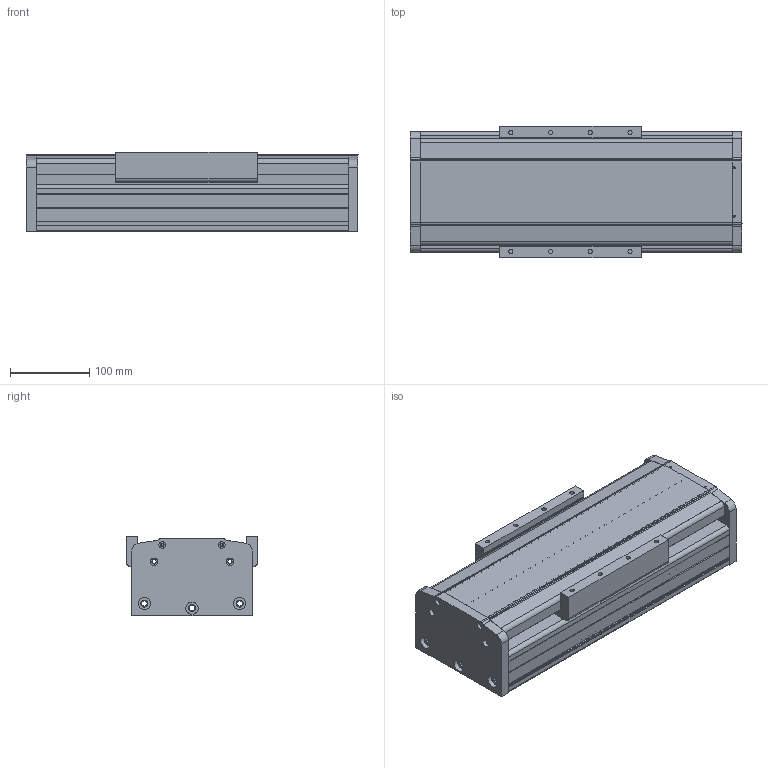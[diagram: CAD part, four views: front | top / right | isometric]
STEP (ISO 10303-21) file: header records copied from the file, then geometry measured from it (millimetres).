
FILE_DESCRIPTION(/* description */ (''),/* implementation_level */ '2;1');
FILE_NAME(/* name */ 'GF150-行程100.stp',/* time_stamp */ '2022-05-31T12:09:50+08:00',/* author */ (''),/* organization */ (''),/* preprocessor_version */ 'ST-DEVELOPER v16',/* originating_system */ 'SIEMENS PLM Software NX 10.0',/* authorisation */ '');
FILE_SCHEMA (('AP203_CONFIGURATION_CONTROLLED_3D_DESIGN_OF_MECHANICAL_PARTS_AND_ASSEMBLIES_MIM_LF { 1 0 10303 403 2 1 2}'));
Length unit declared in the file: millimetre
Products named in the file (1): Admi1B78CFABo93t
Bounding box: 418 x 166 x 100.3 mm (x, y, z)
Volume: 2794002.6 mm3; surface area: 1216247.6 mm2
Topology: 19 solids, 19 shells, 907 faces, 2380 edges, 1606 vertices
Faces by surface type: plane 534, cylinder 373
Full cylindrical faces by diameter (mm): 2.5 x2, 3.3 x2, 4.2 x4, 4.3 x52, 4.5 x2, 5.3 x18, 5.5 x18, 6.5 x6, 8.5 x2, 9 x22, 9.5 x24, 15 x5, 15.5 x6, 20 x3, 27 x1, 28 x1, 35 x5, 36 x1, 37 x1, 50.3 x1
Entity records: 27106 total; most frequent: DIRECTION 4700, CARTESIAN_POINT 4608, ORIENTED_EDGE 4278, EDGE_CURVE 2139, AXIS2_PLACEMENT_3D 1657, VERTEX_POINT 1541, LINE 1386, VECTOR 1386
